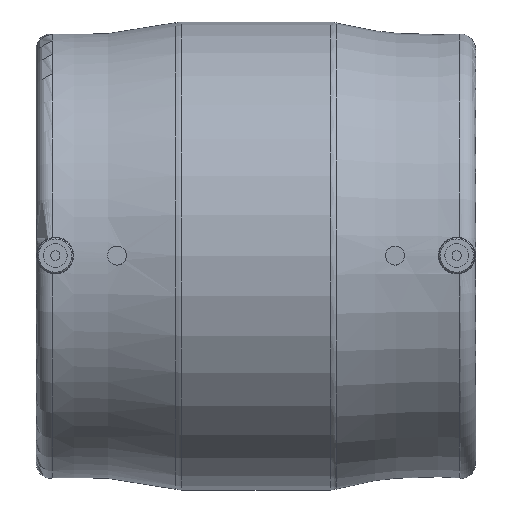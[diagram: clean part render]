
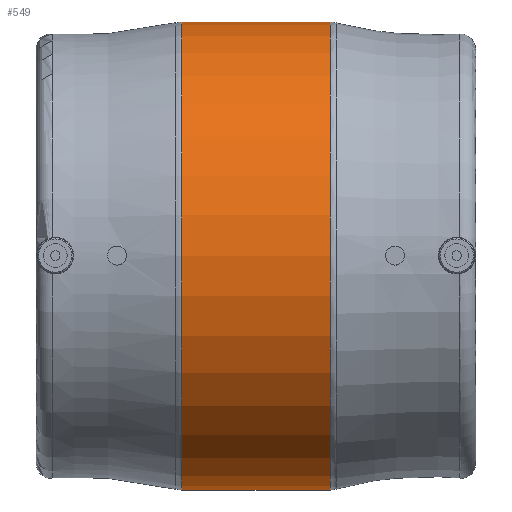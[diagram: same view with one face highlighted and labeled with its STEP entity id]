
A CAD part, top view. The second image highlights one B-rep face of the part: STEP entity #549.
In plain terms, the highlighted cylindrical face has radius 98.5 mm (diameter 197 mm), a full revolution.
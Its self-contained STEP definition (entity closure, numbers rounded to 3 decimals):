
#71=CYLINDRICAL_SURFACE('',#616,98.5);
#114=CIRCLE('',#617,98.5);
#115=CIRCLE('',#618,98.5);
#166=ORIENTED_EDGE('',*,*,#292,.T.);
#167=ORIENTED_EDGE('',*,*,#293,.T.);
#292=EDGE_CURVE('',#356,#356,#114,.F.);
#293=EDGE_CURVE('',#357,#357,#115,.T.);
#356=VERTEX_POINT('',#981);
#357=VERTEX_POINT('',#983);
#412=EDGE_LOOP('',(#166));
#413=EDGE_LOOP('',(#167));
#482=FACE_BOUND('',#412,.T.);
#483=FACE_BOUND('',#413,.T.);
#549=ADVANCED_FACE('',(#482,#483),#71,.T.);
#616=AXIS2_PLACEMENT_3D('',#979,#719,#720);
#617=AXIS2_PLACEMENT_3D('',#980,#721,#722);
#618=AXIS2_PLACEMENT_3D('',#982,#723,#724);
#719=DIRECTION('',(-1.,0.,0.));
#720=DIRECTION('',(0.,0.,1.));
#721=DIRECTION('',(1.,0.,0.));
#722=DIRECTION('',(0.,0.,-1.));
#723=DIRECTION('',(1.,0.,0.));
#724=DIRECTION('',(0.,0.,-1.));
#979=CARTESIAN_POINT('',(-60.,0.,0.));
#980=CARTESIAN_POINT('',(31.218,0.,0.));
#981=CARTESIAN_POINT('',(31.218,0.,-98.5));
#982=CARTESIAN_POINT('',(-31.218,0.,0.));
#983=CARTESIAN_POINT('',(-31.218,0.,-98.5));
